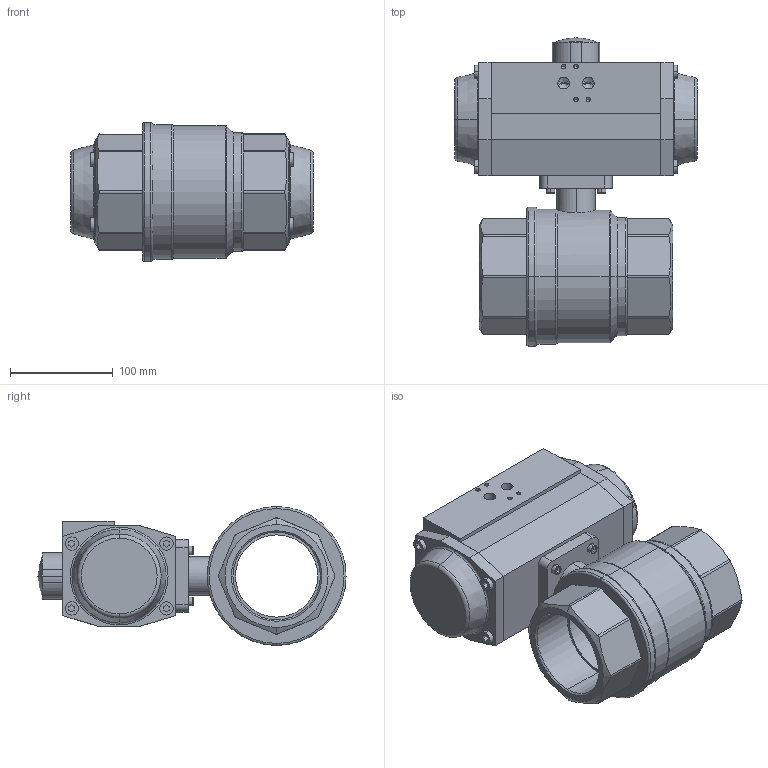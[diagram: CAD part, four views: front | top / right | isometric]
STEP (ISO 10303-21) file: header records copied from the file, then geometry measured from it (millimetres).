
FILE_DESCRIPTION (( 'STEP AP214' ), '1' );
FILE_NAME ('A25-DN80-G3+AP3.5.step', '2011-03-03T09:50:35', ( '' ), ( '' ), 'SwSTEP 2.0', 'SolidWorks 2011', '' );
FILE_SCHEMA (( 'AUTOMOTIVE_DESIGN' ));
Length unit declared in the file: millimetre
Products named in the file (4): DIN 912 M5 x 20 --- 20N_DIN 912 M5 x 20 --- 20N; AP3.5_Default<As Machined>; Ballvalve A25-DN80 G3; A25-DN80-G3+AP3.5
Assembly tree (6 placements, depth 2):
  A25-DN80-G3+AP3.5
    DIN 912 M5 x 20 --- 20N_DIN 912 M5 x 20 --- 20N  x4
    Ballvalve A25-DN80 G3
    AP3.5_Default<As Machined>
Bounding box: 236 x 299.49 x 135 mm (x, y, z)
Volume: 3443405.1 mm3; surface area: 279384.2 mm2
Topology: 9 solids, 9 shells, 444 faces, 1060 edges, 650 vertices
Faces by surface type: plane 229, cylinder 121, cone 58, torus 34, sphere 2
Entity records: 11875 total; most frequent: CARTESIAN_POINT 2321, DIRECTION 1798, ORIENTED_EDGE 1712, EDGE_CURVE 856, AXIS2_PLACEMENT_3D 636, VERTEX_POINT 551, LINE 526, VECTOR 526
